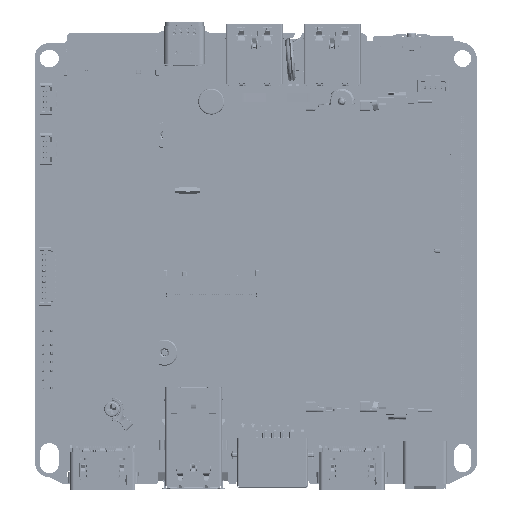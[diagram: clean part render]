
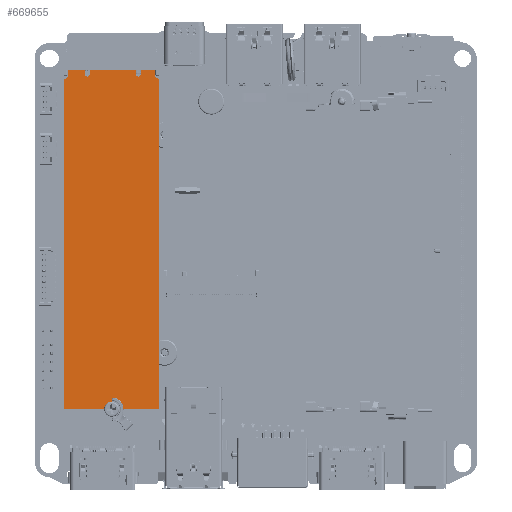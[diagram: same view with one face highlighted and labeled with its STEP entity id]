
A CAD part, front view. The second image highlights one B-rep face of the part: STEP entity #669655.
In plain terms, the highlighted planar face has unit normal (0, -1, 0) as drawn and (0, 1, 0) by its records, which use the part's own axes.
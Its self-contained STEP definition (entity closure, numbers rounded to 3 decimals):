
#668893=DIRECTION('',(1.,0.,0.));
#668894=VECTOR('',#668893,0.075);
#668895=CARTESIAN_POINT('',(10.925,0.4,-4.));
#668896=LINE('',#668895,#668894);
#668942=DIRECTION('',(0.,0.,1.));
#668943=VECTOR('',#668942,2.9);
#668944=CARTESIAN_POINT('',(6.225,0.4,-2.9));
#668945=LINE('',#668944,#668943);
#668991=DIRECTION('',(0.,0.,1.));
#668992=VECTOR('',#668991,2.9);
#668993=CARTESIAN_POINT('',(-5.525,0.4,-2.9));
#668994=LINE('',#668993,#668992);
#669040=DIRECTION('',(0.,0.,1.));
#669041=VECTOR('',#669040,3.);
#669042=CARTESIAN_POINT('',(-9.925,0.4,-3.));
#669043=LINE('',#669042,#669041);
#669103=CARTESIAN_POINT('',(0.,0.4,-80.));
#669104=DIRECTION('',(0.,1.,0.));
#669105=DIRECTION('',(-1.,0.,0.));
#669106=AXIS2_PLACEMENT_3D('',#669103,#669104,#669105);
#669111=DIRECTION('',(1.,0.,0.));
#669112=VECTOR('',#669111,9.25);
#669113=CARTESIAN_POINT('',(1.75,0.4,-80.));
#669114=LINE('',#669113,#669112);
#669118=DIRECTION('',(0.,0.,1.));
#669119=VECTOR('',#669118,76.);
#669120=CARTESIAN_POINT('',(11.,0.4,-80.));
#669121=LINE('',#669120,#669119);
#669125=CARTESIAN_POINT('',(10.925,0.4,-3.));
#669126=DIRECTION('',(0.,1.,0.));
#669127=DIRECTION('',(0.,0.,-1.));
#669128=AXIS2_PLACEMENT_3D('',#669125,#669126,#669127);
#669133=DIRECTION('',(0.,0.,1.));
#669134=VECTOR('',#669133,3.);
#669135=CARTESIAN_POINT('',(9.925,0.4,-3.));
#669136=LINE('',#669135,#669134);
#669140=DIRECTION('',(-1.,0.,0.));
#669141=VECTOR('',#669140,3.7);
#669142=CARTESIAN_POINT('',(9.925,0.4,0.));
#669143=LINE('',#669142,#669141);
#669147=CARTESIAN_POINT('',(5.625,0.4,-2.9));
#669148=DIRECTION('',(0.,1.,0.));
#669149=DIRECTION('',(1.,0.,0.));
#669150=AXIS2_PLACEMENT_3D('',#669147,#669148,#669149);
#669155=DIRECTION('',(0.,0.,1.));
#669156=VECTOR('',#669155,2.9);
#669157=CARTESIAN_POINT('',(5.025,0.4,-2.9));
#669158=LINE('',#669157,#669156);
#669162=DIRECTION('',(-1.,0.,0.));
#669163=VECTOR('',#669162,10.55);
#669164=CARTESIAN_POINT('',(5.025,0.4,0.));
#669165=LINE('',#669164,#669163);
#669169=CARTESIAN_POINT('',(-6.125,0.4,-2.9));
#669170=DIRECTION('',(0.,1.,0.));
#669171=DIRECTION('',(1.,0.,0.));
#669172=AXIS2_PLACEMENT_3D('',#669169,#669170,#669171);
#669177=DIRECTION('',(0.,0.,1.));
#669178=VECTOR('',#669177,2.9);
#669179=CARTESIAN_POINT('',(-6.725,0.4,-2.9));
#669180=LINE('',#669179,#669178);
#669184=DIRECTION('',(-1.,0.,0.));
#669185=VECTOR('',#669184,3.2);
#669186=CARTESIAN_POINT('',(-6.725,0.4,0.));
#669187=LINE('',#669186,#669185);
#669191=CARTESIAN_POINT('',(-10.925,0.4,-3.));
#669192=DIRECTION('',(0.,1.,0.));
#669193=DIRECTION('',(1.,0.,0.));
#669194=AXIS2_PLACEMENT_3D('',#669191,#669192,#669193);
#669199=DIRECTION('',(-1.,0.,0.));
#669200=VECTOR('',#669199,0.075);
#669201=CARTESIAN_POINT('',(-10.925,0.4,-4.));
#669202=LINE('',#669201,#669200);
#669206=DIRECTION('',(0.,0.,-1.));
#669207=VECTOR('',#669206,76.);
#669208=CARTESIAN_POINT('',(-11.,0.4,-4.));
#669209=LINE('',#669208,#669207);
#669213=DIRECTION('',(1.,0.,0.));
#669214=VECTOR('',#669213,9.25);
#669215=CARTESIAN_POINT('',(-11.,0.4,-80.));
#669216=LINE('',#669215,#669214);
#669260=CARTESIAN_POINT('',(1.75,0.4,-80.));
#669261=VERTEX_POINT('',#669260);
#669262=CARTESIAN_POINT('',(-1.75,0.4,-80.));
#669263=VERTEX_POINT('',#669262);
#669264=CARTESIAN_POINT('',(11.,0.4,-80.));
#669265=VERTEX_POINT('',#669264);
#669266=CARTESIAN_POINT('',(-11.,0.4,-80.));
#669267=VERTEX_POINT('',#669266);
#669268=CARTESIAN_POINT('',(11.,0.4,-4.));
#669269=VERTEX_POINT('',#669268);
#669270=CARTESIAN_POINT('',(10.925,0.4,-4.));
#669271=VERTEX_POINT('',#669270);
#669272=CARTESIAN_POINT('',(9.925,0.4,-3.));
#669273=VERTEX_POINT('',#669272);
#669274=CARTESIAN_POINT('',(9.925,0.4,0.));
#669275=VERTEX_POINT('',#669274);
#669276=CARTESIAN_POINT('',(6.225,0.4,0.));
#669277=VERTEX_POINT('',#669276);
#669278=CARTESIAN_POINT('',(-9.925,0.4,0.));
#669279=VERTEX_POINT('',#669278);
#669280=CARTESIAN_POINT('',(-6.725,0.4,0.));
#669281=VERTEX_POINT('',#669280);
#669282=CARTESIAN_POINT('',(5.025,0.4,0.));
#669283=VERTEX_POINT('',#669282);
#669284=CARTESIAN_POINT('',(-5.525,0.4,0.));
#669285=VERTEX_POINT('',#669284);
#669286=CARTESIAN_POINT('',(6.225,0.4,-2.9));
#669287=VERTEX_POINT('',#669286);
#669288=CARTESIAN_POINT('',(5.025,0.4,-2.9));
#669289=VERTEX_POINT('',#669288);
#669290=CARTESIAN_POINT('',(-5.525,0.4,-2.9));
#669291=VERTEX_POINT('',#669290);
#669292=CARTESIAN_POINT('',(-6.725,0.4,-2.9));
#669293=VERTEX_POINT('',#669292);
#669294=CARTESIAN_POINT('',(-9.925,0.4,-3.));
#669295=VERTEX_POINT('',#669294);
#669296=CARTESIAN_POINT('',(-10.925,0.4,-4.));
#669297=VERTEX_POINT('',#669296);
#669298=CARTESIAN_POINT('',(-11.,0.4,-4.));
#669299=VERTEX_POINT('',#669298);
#669628=CARTESIAN_POINT('',(0.,0.4,0.));
#669629=DIRECTION('',(0.,1.,0.));
#669630=DIRECTION('',(1.,0.,0.));
#669631=AXIS2_PLACEMENT_3D('',#669628,#669629,#669630);
#669632=PLANE('',#669631);
#669633=ORIENTED_EDGE('',*,*,#669356,.T.);
#669634=ORIENTED_EDGE('',*,*,#669372,.T.);
#669635=ORIENTED_EDGE('',*,*,#669384,.T.);
#669636=ORIENTED_EDGE('',*,*,#669399,.F.);
#669637=ORIENTED_EDGE('',*,*,#669413,.T.);
#669638=ORIENTED_EDGE('',*,*,#669427,.T.);
#669639=ORIENTED_EDGE('',*,*,#669442,.T.);
#669640=ORIENTED_EDGE('',*,*,#669455,.F.);
#669641=ORIENTED_EDGE('',*,*,#669469,.T.);
#669642=ORIENTED_EDGE('',*,*,#669483,.T.);
#669643=ORIENTED_EDGE('',*,*,#669498,.T.);
#669644=ORIENTED_EDGE('',*,*,#669511,.F.);
#669645=ORIENTED_EDGE('',*,*,#669525,.T.);
#669646=ORIENTED_EDGE('',*,*,#669539,.T.);
#669647=ORIENTED_EDGE('',*,*,#669552,.T.);
#669648=ORIENTED_EDGE('',*,*,#669567,.F.);
#669649=ORIENTED_EDGE('',*,*,#669581,.T.);
#669650=ORIENTED_EDGE('',*,*,#669595,.T.);
#669651=ORIENTED_EDGE('',*,*,#669610,.T.);
#669652=ORIENTED_EDGE('',*,*,#669621,.T.);
#669653=EDGE_LOOP('',(#669633,#669634,#669635,#669636,#669637,#669638,#669639,
#669640,#669641,#669642,#669643,#669644,#669645,#669646,#669647,#669648,#669649,
#669650,#669651,#669652));
#669654=FACE_OUTER_BOUND('',#669653,.F.);
#669107=CIRCLE('',#669106,1.75);
#669129=CIRCLE('',#669128,1.);
#669151=CIRCLE('',#669150,0.6);
#669173=CIRCLE('',#669172,0.6);
#669195=CIRCLE('',#669194,1.);
#669356=EDGE_CURVE('',#669263,#669261,#669107,.T.);
#669372=EDGE_CURVE('',#669261,#669265,#669114,.T.);
#669384=EDGE_CURVE('',#669265,#669269,#669121,.T.);
#669399=EDGE_CURVE('',#669271,#669269,#668896,.T.);
#669413=EDGE_CURVE('',#669271,#669273,#669129,.T.);
#669427=EDGE_CURVE('',#669273,#669275,#669136,.T.);
#669442=EDGE_CURVE('',#669275,#669277,#669143,.T.);
#669455=EDGE_CURVE('',#669287,#669277,#668945,.T.);
#669469=EDGE_CURVE('',#669287,#669289,#669151,.T.);
#669483=EDGE_CURVE('',#669289,#669283,#669158,.T.);
#669498=EDGE_CURVE('',#669283,#669285,#669165,.T.);
#669511=EDGE_CURVE('',#669291,#669285,#668994,.T.);
#669525=EDGE_CURVE('',#669291,#669293,#669173,.T.);
#669539=EDGE_CURVE('',#669293,#669281,#669180,.T.);
#669552=EDGE_CURVE('',#669281,#669279,#669187,.T.);
#669567=EDGE_CURVE('',#669295,#669279,#669043,.T.);
#669581=EDGE_CURVE('',#669295,#669297,#669195,.T.);
#669595=EDGE_CURVE('',#669297,#669299,#669202,.T.);
#669610=EDGE_CURVE('',#669299,#669267,#669209,.T.);
#669621=EDGE_CURVE('',#669267,#669263,#669216,.T.);
#669655=ADVANCED_FACE('',(#669654),#669632,.T.);
